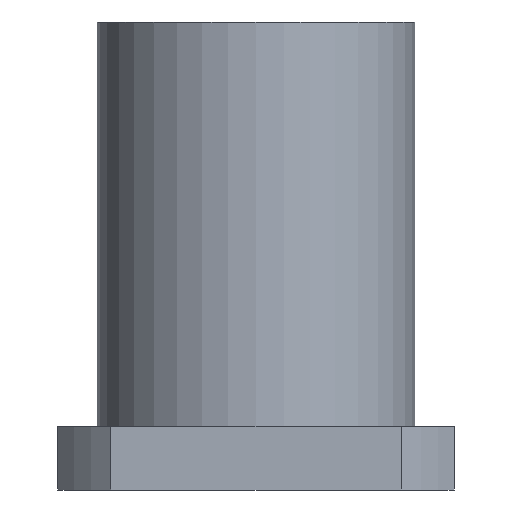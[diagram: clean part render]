
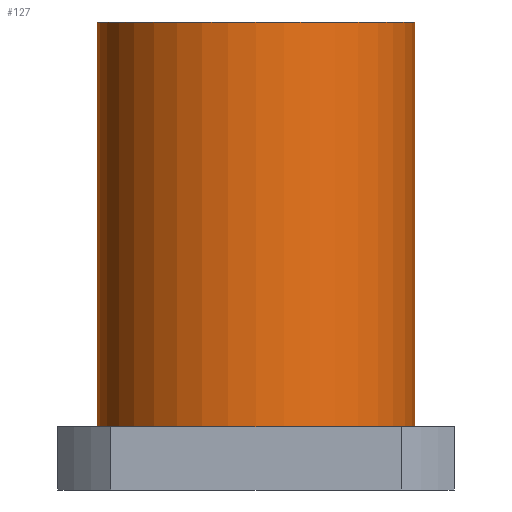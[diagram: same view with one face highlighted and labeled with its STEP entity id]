
A CAD part, front view. The second image highlights one B-rep face of the part: STEP entity #127.
In plain terms, the highlighted cylindrical face has radius 20 mm (diameter 40 mm), a partial arc.
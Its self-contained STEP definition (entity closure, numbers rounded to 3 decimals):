
#86=CARTESIAN_POINT('',(-14.031,3.294,0.0));
#87=DIRECTION('',(0.0,0.0,1.0));
#88=DIRECTION('',(-1.0,0.0,0.0));
#89=AXIS2_PLACEMENT_3D('',#86,#87,#88);
#90=CYLINDRICAL_SURFACE('',#89,20.0);
#91=CARTESIAN_POINT('',(-34.031,3.294,8.0));
#92=VERTEX_POINT('',#91);
#93=CARTESIAN_POINT('',(-34.031,3.294,59.0));
#94=VERTEX_POINT('',#93);
#95=CARTESIAN_POINT('',(-34.031,3.294,8.0));
#96=DIRECTION('',(0.0,0.0,1.0));
#97=VECTOR('',#96,51.0);
#98=LINE('',#95,#97);
#99=EDGE_CURVE('',#92,#94,#98,.T.);
#100=ORIENTED_EDGE('',*,*,#99,.F.);
#101=CARTESIAN_POINT('',(5.969,3.294,8.0));
#102=VERTEX_POINT('',#101);
#103=CARTESIAN_POINT('',(-14.031,3.294,8.0));
#104=DIRECTION('',(0.0,0.0,-1.0));
#105=DIRECTION('',(-1.0,0.0,0.0));
#106=AXIS2_PLACEMENT_3D('',#103,#104,#105);
#107=CIRCLE('',#106,20.0);
#108=EDGE_CURVE('',#102,#92,#107,.T.);
#109=ORIENTED_EDGE('',*,*,#108,.F.);
#110=CARTESIAN_POINT('',(5.969,3.294,59.0));
#111=VERTEX_POINT('',#110);
#112=CARTESIAN_POINT('',(5.969,3.294,59.0));
#113=DIRECTION('',(0.0,0.0,-1.0));
#114=VECTOR('',#113,51.0);
#115=LINE('',#112,#114);
#116=EDGE_CURVE('',#111,#102,#115,.T.);
#117=ORIENTED_EDGE('',*,*,#116,.F.);
#118=CARTESIAN_POINT('',(-14.031,3.294,59.0));
#119=DIRECTION('',(0.0,0.0,-1.0));
#120=DIRECTION('',(-1.0,0.0,0.0));
#121=AXIS2_PLACEMENT_3D('',#118,#119,#120);
#122=CIRCLE('',#121,20.0);
#123=EDGE_CURVE('',#111,#94,#122,.T.);
#124=ORIENTED_EDGE('',*,*,#123,.T.);
#125=EDGE_LOOP('',(#100,#109,#117,#124));
#126=FACE_OUTER_BOUND('',#125,.T.);
#127=ADVANCED_FACE('',(#126),#90,.T.);
